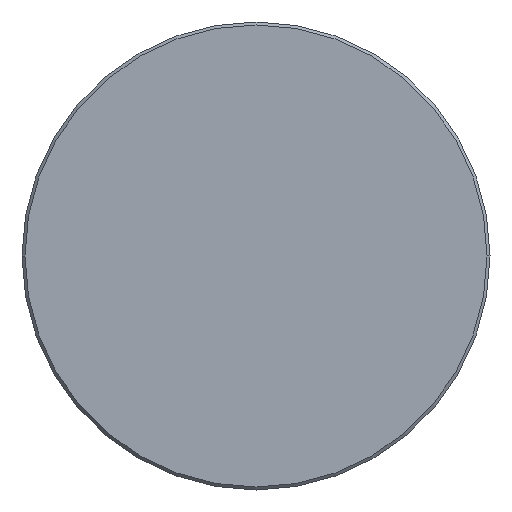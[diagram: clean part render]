
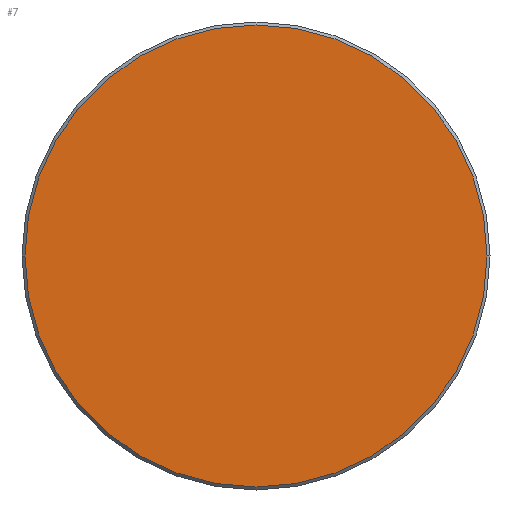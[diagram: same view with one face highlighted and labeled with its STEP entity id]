
A CAD part, left-side view. The second image highlights one B-rep face of the part: STEP entity #7.
In plain terms, the highlighted planar face has unit normal (-1, 0, 0).
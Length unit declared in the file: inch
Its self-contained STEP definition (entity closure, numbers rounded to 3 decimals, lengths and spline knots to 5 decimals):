
#7 = ADVANCED_FACE ( 'NONE', ( #246 ), #352, .T. ) ;
#8 = EDGE_LOOP ( 'NONE', ( #368, #206 ) ) ;
#26 = EDGE_CURVE ( 'NONE', #212, #373, #136, .T. ) ;
#28 = CARTESIAN_POINT ( 'NONE',  ( 0., 0., 0. ) ) ;
#47 = CARTESIAN_POINT ( 'NONE',  ( 0., 0.3085, 0. ) ) ;
#79 = DIRECTION ( 'NONE',  ( 0., -1., 0. ) ) ;
#80 = CIRCLE ( 'NONE', #291, 0.3085 ) ;
#87 = DIRECTION ( 'NONE',  ( -1., 0., 0. ) ) ;
#108 = AXIS2_PLACEMENT_3D ( 'NONE', #141, #348, #350 ) ;
#123 = EDGE_CURVE ( 'NONE', #373, #212, #80, .T. ) ;
#136 = CIRCLE ( 'NONE', #108, 0.3085 ) ;
#141 = CARTESIAN_POINT ( 'NONE',  ( 0., 0., 0. ) ) ;
#173 = CARTESIAN_POINT ( 'NONE',  ( 0., 0., 0. ) ) ;
#194 = DIRECTION ( 'NONE',  ( -1., 0., 0. ) ) ;
#206 = ORIENTED_EDGE ( 'NONE', *, *, #26, .T. ) ;
#212 = VERTEX_POINT ( 'NONE', #330 ) ;
#246 = FACE_OUTER_BOUND ( 'NONE', #8, .T. ) ;
#285 = AXIS2_PLACEMENT_3D ( 'NONE', #173, #194, #79 ) ;
#291 = AXIS2_PLACEMENT_3D ( 'NONE', #28, #87, #353 ) ;
#330 = CARTESIAN_POINT ( 'NONE',  ( 0., -0.3085, 0. ) ) ;
#348 = DIRECTION ( 'NONE',  ( -1., 0., 0. ) ) ;
#350 = DIRECTION ( 'NONE',  ( 0., -1., 0. ) ) ;
#352 = PLANE ( 'NONE',  #285 ) ;
#353 = DIRECTION ( 'NONE',  ( 0., -1., 0. ) ) ;
#368 = ORIENTED_EDGE ( 'NONE', *, *, #123, .T. ) ;
#373 = VERTEX_POINT ( 'NONE', #47 ) ;
